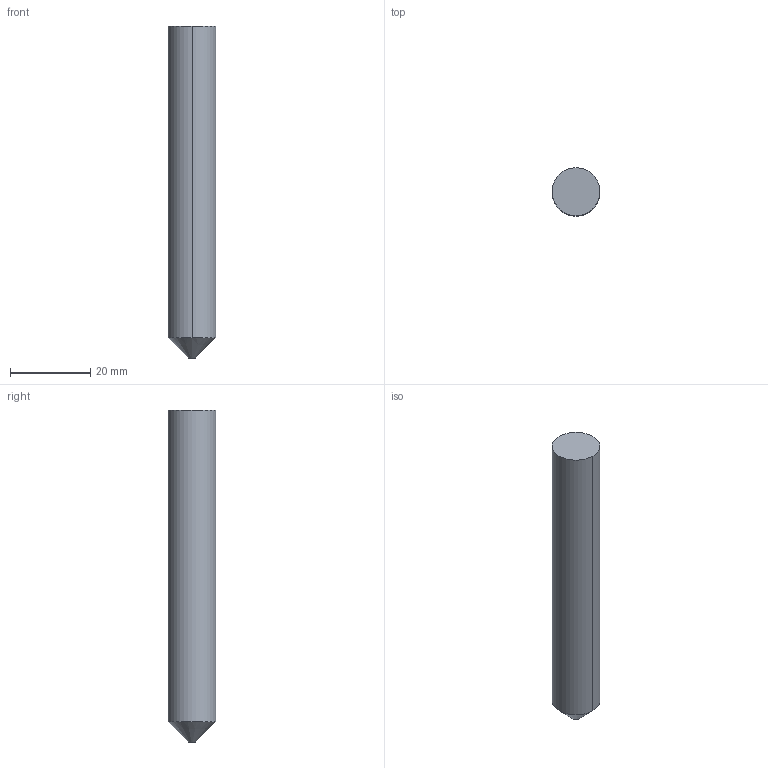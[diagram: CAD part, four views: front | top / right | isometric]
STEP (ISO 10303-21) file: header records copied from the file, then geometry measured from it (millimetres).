
FILE_DESCRIPTION((' '),'2;1');
FILE_NAME( '5HCM12003B.stp', '2026-01-21T09:09:04', (' '), ('--- Datakit www.datakit.com---'), ' Datakit CrossCadWare V2025.4 Sep 19 2025', 'Mastercam 2027', ' ');
FILE_SCHEMA(('AUTOMOTIVE_DESIGN { 1 0 10303 214 1 1 1 1 }'));
Length unit declared in the file: inch
Products named in the file (1): 5HCM12003B
Bounding box: 12 x 12 x 83 mm (x, y, z)
Volume: 9045.1 mm3; surface area: 3212 mm2
Topology: 1 solids, 1 shells, 8 faces, 14 edges, 8 vertices
Faces by surface type: cylinder 4, plane 2, cone 2
Entity records: 264 total; most frequent: DIRECTION 48, CARTESIAN_POINT 35, ORIENTED_EDGE 28, AXIS2_PLACEMENT_3D 21, EDGE_CURVE 14, VERTEX_POINT 8, CIRCLE 8, EDGE_LOOP 8
